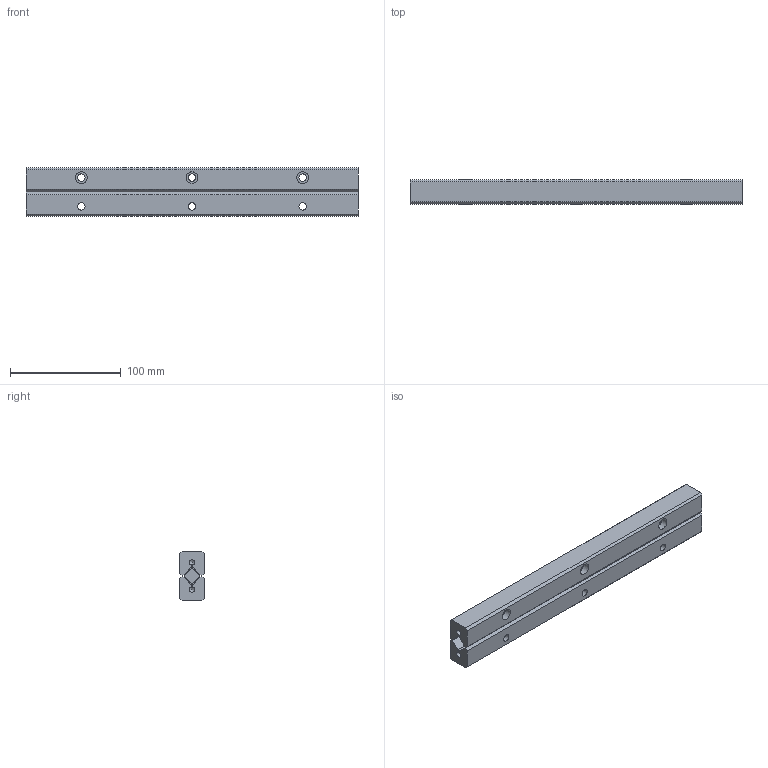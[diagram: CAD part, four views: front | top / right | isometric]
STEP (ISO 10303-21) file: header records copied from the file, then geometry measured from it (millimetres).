
FILE_DESCRIPTION((''),'2;1');
FILE_NAME('D:\製品 (図面)\カタログ用3D\リニアガイド関連\STEP形式\ACS9\ACS9300.stp','2010-07-29T15:46:13',('Tsuchiya'),(''),'Autodesk Inventor 10','Autodesk Inventor 10','');
FILE_SCHEMA(('AUTOMOTIVE_DESIGN { 1 0 10303 214 1 1 1 1 }'));
Length unit declared in the file: millimetre
Products named in the file (4): ACS9300; ACS93001; ACS93002; ACS93003
Assembly tree (3 placements, depth 2):
  ACS9300
    ACS93001
    ACS93002
    ACS93003
Bounding box: 300 x 22 x 44 mm (x, y, z)
Volume: 261560.2 mm3; surface area: 69173.4 mm2
Topology: 3 solids, 3 shells, 80 faces, 190 edges, 126 vertices
Faces by surface type: plane 52, bspline 22, cylinder 4, cone 2
Full cylindrical faces by diameter (mm): 4.917 x2
Entity records: 2475 total; most frequent: CARTESIAN_POINT 661, DIRECTION 330, ORIENTED_EDGE 328, EDGE_CURVE 164, VECTOR 128, LINE 128, EDGE_LOOP 122, VERTEX_POINT 120
